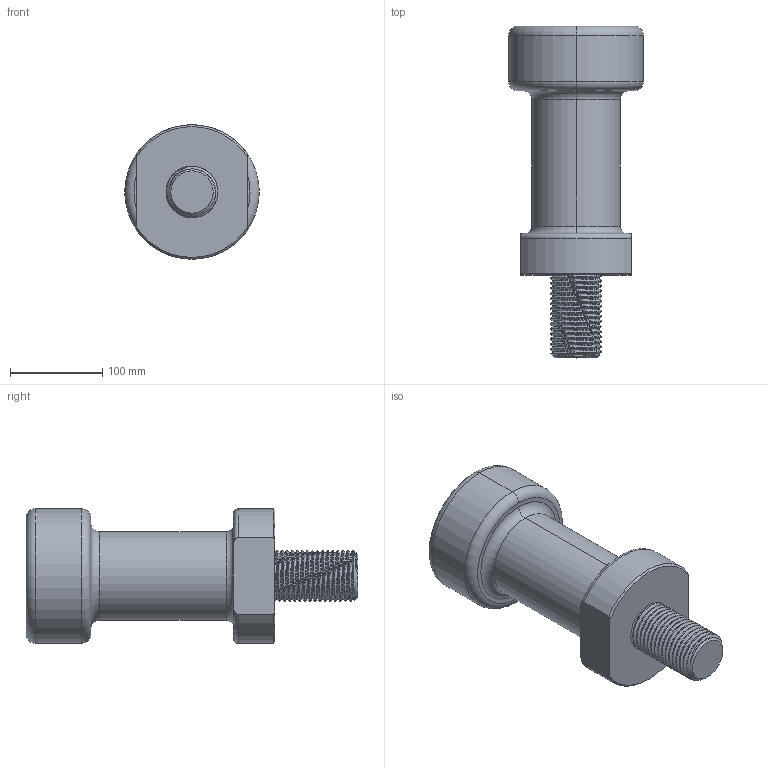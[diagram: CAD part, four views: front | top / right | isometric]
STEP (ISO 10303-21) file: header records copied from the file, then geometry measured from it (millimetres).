
FILE_DESCRIPTION (( 'STEP AP203' ), '1' );
FILE_NAME ('Plots_M56.STEP', '2022-03-14T16:28:29', ( '' ), ( '' ), 'SwSTEP 2.0', 'SolidWorks 2021', '' );
FILE_SCHEMA (( 'CONFIG_CONTROL_DESIGN' ));
Length unit declared in the file: millimetre
Products named in the file (1): Plots_M56
Bounding box: 146 x 360 x 146 mm (x, y, z)
Volume: 3164229.6 mm3; surface area: 167551.1 mm2
Topology: 1 solids, 1 shells, 68 faces, 177 edges, 114 vertices
Faces by surface type: cylinder 39, torus 11, plane 8, cone 6, bspline 4
Entity records: 8687 total; most frequent: CARTESIAN_POINT 7146, ORIENTED_EDGE 354, DIRECTION 270, EDGE_CURVE 177, VERTEX_POINT 114, AXIS2_PLACEMENT_3D 109, EDGE_LOOP 71, ADVANCED_FACE 68
